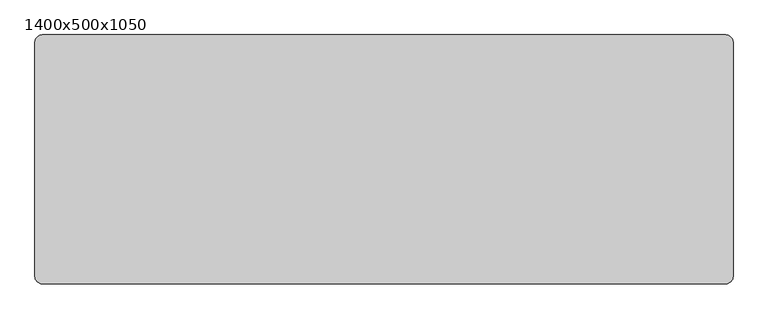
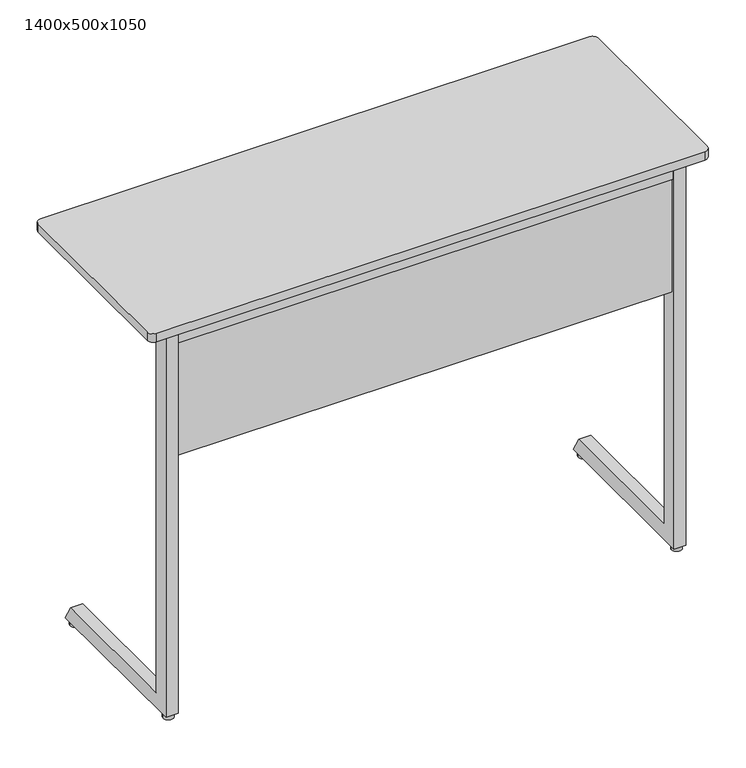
"""IFC4 building model written with IfcOpenShell, lengths in millimetres: furniture geometry, Trivia Light : 1400x500x1050."""

from ifc_helpers import new_model, si_unit, point, frame, frame_2d, origin, origin_with_axes, place, context, project, spatial, polyline, circle_curve, trimmed, segment, composite_curve, outline, extrude, source, transform, mapped, element, save


def furniture_1400x500x1050_74984aaa(model_context):
    return source(origin(), model_context, "Body", "SweptSolid", [
        extrude(outline(polyline([(434.5100173, 1028.0), (419.9996059, 996.4981092), (54.0, 996.4977978), (54.0, 1028.0), (434.5100173, 1028.0)])), frame((-564.7535601, 0.0, 0.0), z_axis=(1.0, 0.0, 0.0), x_axis=(0.0, 1.0, 0.0)), (0.0, 0.0, 1.0), 30.0),
        extrude(outline(polyline([(1023.7997437, -567.7502136), (1000.730957, -567.7502136), (1000.730957, -599.8065042), (1005.0394353, -611.6439509), (1002.2203574, -612.6700113), (997.730957, -600.3354852), (997.730957, -564.7502136), (1023.7997437, -564.7502136), (1023.7997437, -567.7502136)])), frame((0.0, 215.0, 0.0), z_axis=(0.0, 1.0, 0.0), x_axis=(0.0, 0.0, 1.0)), (0.0, 0.0, 1.0), 30.0),
        extrude(outline(polyline([(1023.7997437, 567.7535601), (1023.7997437, 564.7535601), (997.730957, 564.7535601), (997.730957, 600.3388316), (1002.2203574, 612.6733577), (1005.0394353, 611.6472973), (1000.730957, 599.8098507), (1000.730957, 567.7535601), (1023.7997437, 567.7535601)])), frame((0.0, 215.0, 0.0), z_axis=(0.0, 1.0, 0.0), x_axis=(0.0, 0.0, 1.0)), (0.0, 0.0, 1.0), 30.0),
        extrude(outline(composite_curve([segment(trimmed(circle_curve(frame_2d((-635.0, 35.0)), 13.0), [point((-648.0, 35.0))], [point((-622.0, 35.0))], False, "CARTESIAN"), True, "CONTINUOUS"), segment(trimmed(circle_curve(frame_2d((-635.0, 35.0)), 13.0), [point((-622.0, 35.0))], [point((-648.0, 35.0))], False, "CARTESIAN"), True, "CONTINUOUS")], self_intersect=False)), origin_with_axes(), (0.0, 0.0, 1.0), 13.0905762),
        extrude(outline(composite_curve([segment(trimmed(circle_curve(frame_2d((635.0, 35.0)), 13.0), [point((622.0, 35.0))], [point((648.0, 35.0))], False, "CARTESIAN"), True, "CONTINUOUS"), segment(trimmed(circle_curve(frame_2d((635.0, 35.0)), 13.0), [point((648.0, 35.0))], [point((622.0, 35.0))], False, "CARTESIAN"), True, "CONTINUOUS")], self_intersect=False)), origin_with_axes(), (0.0, 0.0, 1.0), 13.0905762),
        extrude(outline(composite_curve([segment(trimmed(circle_curve(frame_2d((635.0, 437.5)), 13.0), [point((622.0, 437.5))], [point((648.0, 437.5))], False, "CARTESIAN"), True, "CONTINUOUS"), segment(trimmed(circle_curve(frame_2d((635.0, 437.5)), 13.0), [point((648.0, 437.5))], [point((622.0, 437.5))], False, "CARTESIAN"), True, "CONTINUOUS")], self_intersect=False)), origin_with_axes(), (0.0, 0.0, 1.0), 13.0905762),
        extrude(outline(composite_curve([segment(trimmed(circle_curve(frame_2d((-635.0, 437.5)), 13.0), [point((-648.0, 437.5))], [point((-622.0, 437.5))], False, "CARTESIAN"), True, "CONTINUOUS"), segment(trimmed(circle_curve(frame_2d((-635.0, 437.5)), 13.0), [point((-622.0, 437.5))], [point((-648.0, 437.5))], False, "CARTESIAN"), True, "CONTINUOUS")], self_intersect=False)), origin_with_axes(), (0.0, 0.0, 1.0), 13.0905762),
        extrude(outline(polyline([(434.5100173, 1028.0), (419.9996059, 996.4981092), (54.0, 996.4977978), (54.0, 1028.0), (434.5100173, 1028.0)])), frame((534.7535601, 0.0, 0.0), z_axis=(1.0, 0.0, 0.0), x_axis=(0.0, 1.0, 0.0)), (0.0, 0.0, 1.0), 30.0),
        extrude(outline(composite_curve([segment(trimmed(circle_curve(frame_2d((685.0, 485.0)), 15.0), [point((685.0, 500.0))], [point((700.0, 485.0))], False, "CARTESIAN"), True, "CONTINUOUS"), segment(polyline([(700.0, 485.0), (700.0, 15.0)]), True, "CONTINUOUS"), segment(trimmed(circle_curve(frame_2d((685.0, 15.0)), 15.0), [point((700.0, 15.0))], [point((685.0, 0.0))], False, "CARTESIAN"), True, "CONTINUOUS"), segment(polyline([(685.0, 0.0), (-685.0, 0.0)]), True, "CONTINUOUS"), segment(trimmed(circle_curve(frame_2d((-685.0, 15.0)), 15.0), [point((-685.0, 0.0))], [point((-700.0, 15.0))], False, "CARTESIAN"), True, "CONTINUOUS"), segment(polyline([(-700.0, 15.0), (-700.0, 485.0)]), True, "CONTINUOUS"), segment(trimmed(circle_curve(frame_2d((-685.0, 485.0)), 15.0), [point((-700.0, 485.0))], [point((-685.0, 500.0))], False, "CARTESIAN"), True, "CONTINUOUS"), segment(polyline([(-685.0, 500.0), (685.0, 500.0)]), True, "CONTINUOUS")], self_intersect=False)), frame((0.0, 0.0, 1028.0), z_axis=(0.0, 0.0, 1.0), x_axis=(1.0, 0.0, 0.0)), (0.0, 0.0, 1.0), 22.0),
        extrude(outline(polyline([(619.7534307, 54.0), (619.7534307, 24.0), (-619.7534307, 24.0), (-619.7534307, 54.0), (619.7534307, 54.0)])), frame((0.0, 0.0, 986.0), z_axis=(0.0, 0.0, 1.0), x_axis=(1.0, 0.0, 0.0)), (0.0, 0.0, 1.0), 42.0),
        extrude(outline(polyline([(62.0, 51.5905762), (432.1448423, 51.5905762), (454.8944033, 11.5905762), (20.0, 11.5905762), (20.0, 1028.0), (62.0, 1028.0), (62.0, 51.5905762)])), frame((-649.7535601, 0.0, 0.0), z_axis=(1.0, 0.0, 0.0), x_axis=(0.0, 1.0, 0.0)), (0.0, 0.0, 1.0), 30.0001294),
        extrude(outline(polyline([(62.0, 51.5905762), (432.1448423, 51.5905762), (454.8944033, 11.5905762), (20.0, 11.5905762), (20.0, 1028.0), (62.0, 1028.0), (62.0, 51.5905762)])), frame((619.7534307, 0.0, 0.0), z_axis=(1.0, 0.0, 0.0), x_axis=(0.0, 1.0, 0.0)), (0.0, 0.0, 1.0), 30.0001294),
        extrude(outline(polyline([(619.7534307, 45.9187166), (619.7534307, 27.9321552), (-619.7534307, 27.9321552), (-619.7534307, 45.9187166), (619.7534307, 45.9187166)])), frame((0.0, 0.0, 686.5950628), z_axis=(0.0, 0.0, 1.0), x_axis=(1.0, 0.0, 0.0)), (0.0, 0.0, 1.0), 299.4049372),
    ])


if __name__ == "__main__":
    model = new_model("IFC4")
    model_context = context("Model", 3, world=origin())
    ifc_project = project(units=[si_unit("LENGTHUNIT", "METRE", prefix="MILLI")], contexts=[model_context])
    site = spatial("IfcSite", under=ifc_project)
    building = spatial("IfcBuilding", under=site)
    placement = place(None, origin())
    furniture_1400x500x1050_shape = furniture_1400x500x1050_74984aaa(model_context)
    element("IfcFurniture", 1, ObjectType="Trivia Light : 1400x500x1050", at=placement, inside=building, context=model_context, shape_type="MappedRepresentation", body=[
        mapped(furniture_1400x500x1050_shape, transform((0.0, 0.0, 0.0), x_axis=(1.0, 0.0, 0.0), y_axis=(0.0, 1.0, 0.0), z_axis=(0.0, 0.0, 1.0))),
    ])
    save(model, "model.ifc")
